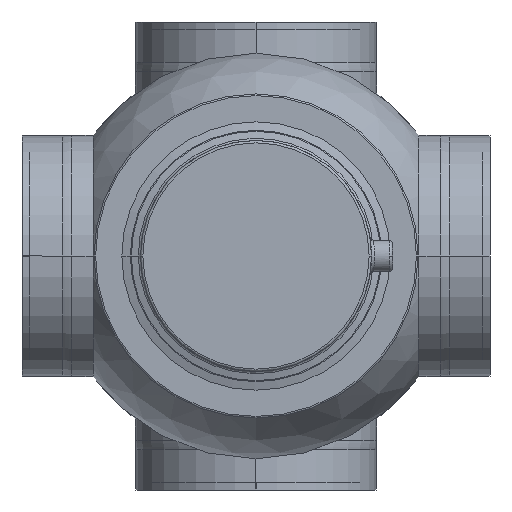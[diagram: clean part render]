
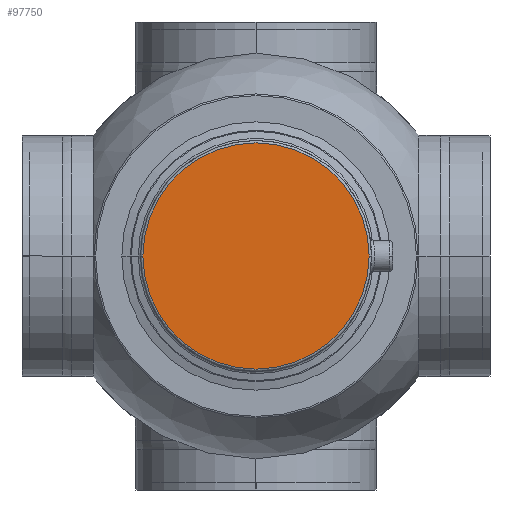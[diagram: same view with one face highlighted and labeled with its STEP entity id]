
A CAD part, front view. The second image highlights one B-rep face of the part: STEP entity #97750.
In plain terms, the highlighted planar face has unit normal (0, -1, 0).
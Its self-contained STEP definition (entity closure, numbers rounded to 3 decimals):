
#97550=CARTESIAN_POINT('',(72.25,0.,0.));
#97560=DIRECTION('',(-0.,1.,0.));
#97570=DIRECTION('',(1.,0.,0.));
#97580=AXIS2_PLACEMENT_3D('',#97550,#97560,#97570);
#97590=PLANE('',#97580);
#97600=CARTESIAN_POINT('',(0.,0.,0.));
#97610=DIRECTION('',(0.,-1.,0.));
#97620=DIRECTION('',(-1.,0.,0.));
#97630=AXIS2_PLACEMENT_3D('',#97600,#97610,#97620);
#97640=CIRCLE('',#97630,72.5);
#97650=CARTESIAN_POINT('',(72.5,0.,0.));
#97660=VERTEX_POINT('',#97650);
#97670=CARTESIAN_POINT('',(-72.5,0.,0.));
#97680=VERTEX_POINT('',#97670);
#97690=EDGE_CURVE('',#97660,#97680,#97640,.T.);
#97700=ORIENTED_EDGE('',*,*,#97690,.T.);
#97710=EDGE_CURVE('',#97680,#97660,#97640,.T.);
#97720=ORIENTED_EDGE('',*,*,#97710,.T.);
#97730=EDGE_LOOP('',(#97720,#97700));
#97740=FACE_OUTER_BOUND('',#97730,.T.);
#97750=ADVANCED_FACE('',(#97740),#97590,.F.);
